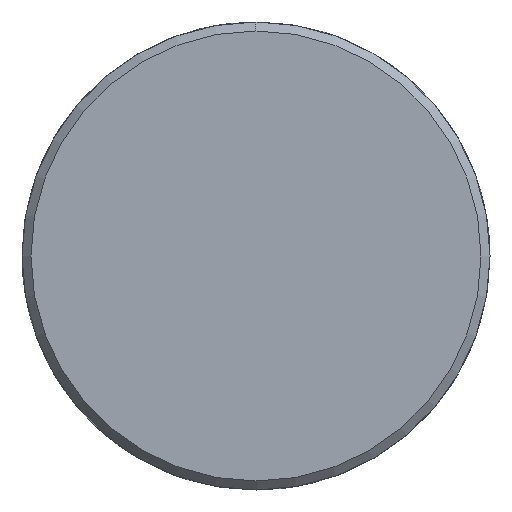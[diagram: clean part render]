
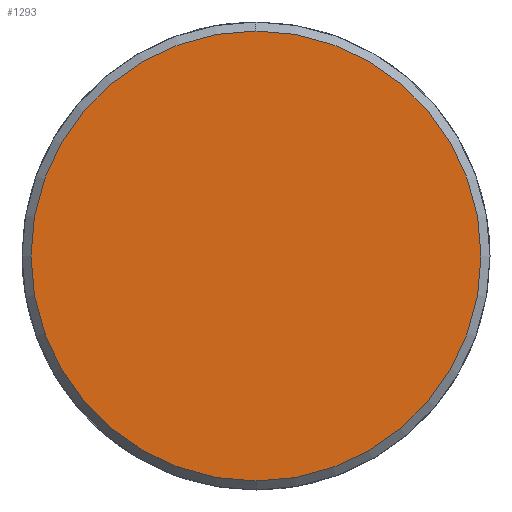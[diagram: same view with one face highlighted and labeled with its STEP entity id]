
A CAD part, left-side view. The second image highlights one B-rep face of the part: STEP entity #1293.
In plain terms, the highlighted planar face has unit normal (-1, 0, 0).
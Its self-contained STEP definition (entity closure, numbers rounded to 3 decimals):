
#1225=CARTESIAN_POINT('Vertex',(-8.,0.,-25.)) ;
#1228=CARTESIAN_POINT('Axis2P3D Location',(-8.,0.,0.)) ;
#1232=CARTESIAN_POINT('Vertex',(-8.,25.,0.)) ;
#1235=CARTESIAN_POINT('Axis2P3D Location',(-8.,0.,0.)) ;
#1239=CARTESIAN_POINT('Vertex',(-8.,0.,25.)) ;
#1261=CARTESIAN_POINT('Axis2P3D Location',(-8.,0.,0.)) ;
#1265=CARTESIAN_POINT('Vertex',(-8.,-25.,0.)) ;
#1268=CARTESIAN_POINT('Axis2P3D Location',(-8.,0.,0.)) ;
#1282=CARTESIAN_POINT('Axis2P3D Location',(-8.,0.,0.)) ;
#1229=DIRECTION('Axis2P3D Direction',(1.,0.,-0.)) ;
#1236=DIRECTION('Axis2P3D Direction',(1.,0.,-0.)) ;
#1262=DIRECTION('Axis2P3D Direction',(1.,0.,-0.)) ;
#1269=DIRECTION('Axis2P3D Direction',(1.,0.,-0.)) ;
#1283=DIRECTION('Axis2P3D Direction',(1.,0.,-0.)) ;
#1284=DIRECTION('Axis2P3D XDirection',(-0.,0.,-1.)) ;
#1230=AXIS2_PLACEMENT_3D('Circle Axis2P3D',#1228,#1229,$) ;
#1237=AXIS2_PLACEMENT_3D('Circle Axis2P3D',#1235,#1236,$) ;
#1263=AXIS2_PLACEMENT_3D('Circle Axis2P3D',#1261,#1262,$) ;
#1270=AXIS2_PLACEMENT_3D('Circle Axis2P3D',#1268,#1269,$) ;
#1285=AXIS2_PLACEMENT_3D('Plane Axis2P3D',#1282,#1283,#1284) ;
#1288=ORIENTED_EDGE('',*,*,#1234,.F.) ;
#1289=ORIENTED_EDGE('',*,*,#1272,.F.) ;
#1290=ORIENTED_EDGE('',*,*,#1267,.F.) ;
#1291=ORIENTED_EDGE('',*,*,#1241,.F.) ;
#1293=ADVANCED_FACE('351-40X56X120',(#1292),#1286,.F.) ;
#1231=CIRCLE('generated circle',#1230,25.) ;
#1238=CIRCLE('generated circle',#1237,25.) ;
#1264=CIRCLE('generated circle',#1263,25.) ;
#1271=CIRCLE('generated circle',#1270,25.) ;
#1234=EDGE_CURVE('',#1226,#1233,#1231,.T.) ;
#1241=EDGE_CURVE('',#1233,#1240,#1238,.T.) ;
#1267=EDGE_CURVE('',#1240,#1266,#1264,.T.) ;
#1272=EDGE_CURVE('',#1266,#1226,#1271,.T.) ;
#1287=EDGE_LOOP('',(#1288,#1289,#1290,#1291)) ;
#1292=FACE_OUTER_BOUND('',#1287,.T.) ;
#1286=PLANE('Plane',#1285) ;
#1226=VERTEX_POINT('',#1225) ;
#1233=VERTEX_POINT('',#1232) ;
#1240=VERTEX_POINT('',#1239) ;
#1266=VERTEX_POINT('',#1265) ;
